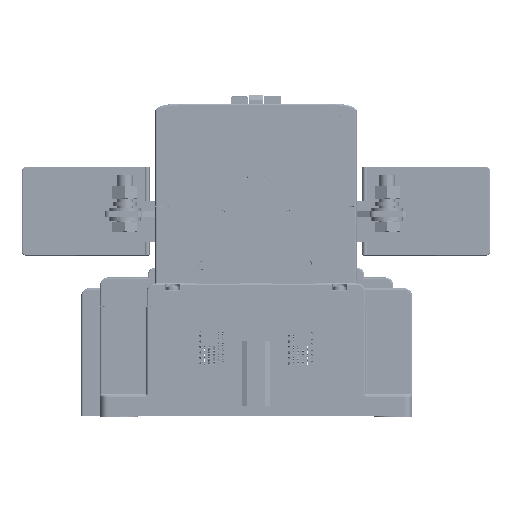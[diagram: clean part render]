
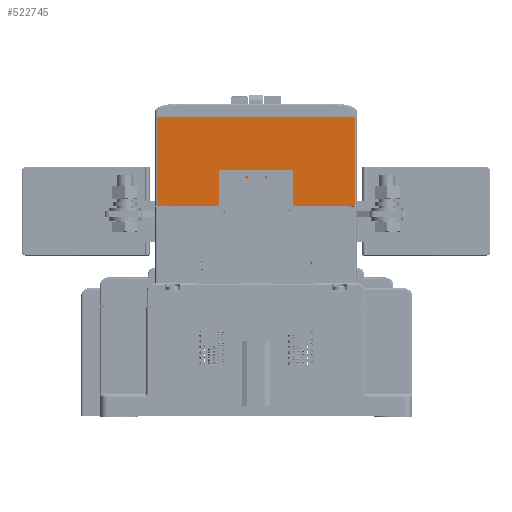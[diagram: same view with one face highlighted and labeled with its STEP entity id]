
A CAD part, left-side view. The second image highlights one B-rep face of the part: STEP entity #522745.
In plain terms, the highlighted planar face has unit normal (-1, 0, 0) as drawn and (1, 0, 0) by its records, which use the part's own axes.
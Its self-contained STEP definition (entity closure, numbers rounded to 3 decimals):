
#3026 = DIRECTION ( 'NONE',  ( 0., 1., 0. ) ) ;
#3708 = DIRECTION ( 'NONE',  ( 0., 0., -1. ) ) ;
#18098 = ORIENTED_EDGE ( 'NONE', *, *, #417259, .T. ) ;
#24889 = DIRECTION ( 'NONE',  ( 0., 0., 1. ) ) ;
#30881 = VERTEX_POINT ( 'NONE', #98754 ) ;
#35093 = ORIENTED_EDGE ( 'NONE', *, *, #960650, .T. ) ;
#54484 = ORIENTED_EDGE ( 'NONE', *, *, #478987, .T. ) ;
#60256 = EDGE_CURVE ( 'NONE', #767217, #897748, #169337, .T. ) ;
#66828 = DIRECTION ( 'NONE',  ( 0., 0., -1. ) ) ;
#84078 = VECTOR ( 'NONE', #1040582, 1000. ) ;
#91354 = CARTESIAN_POINT ( 'NONE',  ( 62.5, 17.7, -15.5 ) ) ;
#98631 = EDGE_CURVE ( 'NONE', #916209, #780032, #577604, .T. ) ;
#98754 = CARTESIAN_POINT ( 'NONE',  ( 62.5, 18.7, -15.5 ) ) ;
#112847 = CARTESIAN_POINT ( 'NONE',  ( 62.5, 17.7, -16.5 ) ) ;
#116597 = VECTOR ( 'NONE', #494074, 1000. ) ;
#130274 = CARTESIAN_POINT ( 'NONE',  ( 62.5, 17.7, 16.5 ) ) ;
#130574 = CARTESIAN_POINT ( 'NONE',  ( 62.5, 8., -17.5 ) ) ;
#135211 = CARTESIAN_POINT ( 'NONE',  ( 62.5, 9., 17.5 ) ) ;
#151154 = LINE ( 'NONE', #800138, #116597 ) ;
#152165 = ORIENTED_EDGE ( 'NONE', *, *, #98631, .F. ) ;
#169337 = LINE ( 'NONE', #340877, #605495 ) ;
#177888 = CARTESIAN_POINT ( 'NONE',  ( 62.5, 9., 16.5 ) ) ;
#180106 = EDGE_LOOP ( 'NONE', ( #35093, #435499, #152165, #200944, #54484, #18098, #447961, #782373, #286781, #185126, #839417, #602310 ) ) ;
#184347 = DIRECTION ( 'NONE',  ( 0., -1., 0. ) ) ;
#185126 = ORIENTED_EDGE ( 'NONE', *, *, #1056832, .T. ) ;
#185909 = DIRECTION ( 'NONE',  ( -1., 0., 0. ) ) ;
#200944 = ORIENTED_EDGE ( 'NONE', *, *, #617475, .T. ) ;
#219907 = CARTESIAN_POINT ( 'NONE',  ( 62.5, 8., 63.5 ) ) ;
#225327 = FACE_OUTER_BOUND ( 'NONE', #180106, .T. ) ;
#236902 = VECTOR ( 'NONE', #3708, 1000. ) ;
#242816 = CARTESIAN_POINT ( 'NONE',  ( 62.5, 9., -16.5 ) ) ;
#261551 = AXIS2_PLACEMENT_3D ( 'NONE', #663388, #185909, #24889 ) ;
#271031 = DIRECTION ( 'NONE',  ( 1., 0., 0. ) ) ;
#286781 = ORIENTED_EDGE ( 'NONE', *, *, #645079, .T. ) ;
#287062 = EDGE_CURVE ( 'NONE', #354180, #627131, #560024, .T. ) ;
#293340 = CARTESIAN_POINT ( 'NONE',  ( 62.5, 18.7, 15.5 ) ) ;
#329509 = AXIS2_PLACEMENT_3D ( 'NONE', #91354, #885550, #740372 ) ;
#340877 = CARTESIAN_POINT ( 'NONE',  ( 62.5, 9., 16.5 ) ) ;
#345220 = LINE ( 'NONE', #919202, #441414 ) ;
#354180 = VERTEX_POINT ( 'NONE', #242816 ) ;
#415339 = CIRCLE ( 'NONE', #261551, 1. ) ;
#417259 = EDGE_CURVE ( 'NONE', #442247, #767217, #684165, .T. ) ;
#423830 = DIRECTION ( 'NONE',  ( 0., 0., -1. ) ) ;
#435499 = ORIENTED_EDGE ( 'NONE', *, *, #461515, .F. ) ;
#441414 = VECTOR ( 'NONE', #184347, 1000. ) ;
#442247 = VERTEX_POINT ( 'NONE', #625612 ) ;
#447961 = ORIENTED_EDGE ( 'NONE', *, *, #60256, .T. ) ;
#461515 = EDGE_CURVE ( 'NONE', #780032, #496736, #650130, .T. ) ;
#469111 = CARTESIAN_POINT ( 'NONE',  ( 62.5, 8., -17.5 ) ) ;
#472882 = DIRECTION ( 'NONE',  ( 1., 0., 0. ) ) ;
#478987 = EDGE_CURVE ( 'NONE', #935174, #442247, #912568, .T. ) ;
#485815 = VECTOR ( 'NONE', #972207, 1000. ) ;
#491817 = CARTESIAN_POINT ( 'NONE',  ( 62.5, 65.5, 63.5 ) ) ;
#494074 = DIRECTION ( 'NONE',  ( 0., 1., 0. ) ) ;
#496736 = VERTEX_POINT ( 'NONE', #936986 ) ;
#498918 = CARTESIAN_POINT ( 'NONE',  ( 62.5, 18.7, 15.5 ) ) ;
#522745 = ADVANCED_FACE ( 'NONE', ( #225327 ), #885023, .T. ) ;
#542354 = AXIS2_PLACEMENT_3D ( 'NONE', #1005934, #271031, #598042 ) ;
#552410 = DIRECTION ( 'NONE',  ( 0., 1., 0. ) ) ;
#560024 = CIRCLE ( 'NONE', #542354, 1. ) ;
#570777 = LINE ( 'NONE', #469111, #646742 ) ;
#577604 = LINE ( 'NONE', #491817, #236902 ) ;
#579395 = LINE ( 'NONE', #498918, #778911 ) ;
#598042 = DIRECTION ( 'NONE',  ( 0., 0., 1. ) ) ;
#602310 = ORIENTED_EDGE ( 'NONE', *, *, #287062, .T. ) ;
#605495 = VECTOR ( 'NONE', #3026, 1000. ) ;
#607644 = CARTESIAN_POINT ( 'NONE',  ( 62.5, 8., 63.5 ) ) ;
#617475 = EDGE_CURVE ( 'NONE', #916209, #935174, #345220, .T. ) ;
#625612 = CARTESIAN_POINT ( 'NONE',  ( 62.5, 8., 17.5 ) ) ;
#627131 = VERTEX_POINT ( 'NONE', #130574 ) ;
#645079 = EDGE_CURVE ( 'NONE', #700082, #30881, #579395, .T. ) ;
#646742 = VECTOR ( 'NONE', #66828, 1000. ) ;
#650130 = LINE ( 'NONE', #1052667, #485815 ) ;
#659536 = CARTESIAN_POINT ( 'NONE',  ( 62.5, 65.5, -63.5 ) ) ;
#663388 = CARTESIAN_POINT ( 'NONE',  ( 62.5, 17.7, 15.5 ) ) ;
#684165 = CIRCLE ( 'NONE', #769909, 1. ) ;
#689350 = CIRCLE ( 'NONE', #329509, 1. ) ;
#700082 = VERTEX_POINT ( 'NONE', #293340 ) ;
#740372 = DIRECTION ( 'NONE',  ( 0., 1., 0. ) ) ;
#756308 = EDGE_CURVE ( 'NONE', #897748, #700082, #415339, .T. ) ;
#765080 = AXIS2_PLACEMENT_3D ( 'NONE', #799153, #809735, #552410 ) ;
#767217 = VERTEX_POINT ( 'NONE', #177888 ) ;
#769909 = AXIS2_PLACEMENT_3D ( 'NONE', #135211, #472882, #1052237 ) ;
#778911 = VECTOR ( 'NONE', #423830, 1000. ) ;
#780032 = VERTEX_POINT ( 'NONE', #659536 ) ;
#782373 = ORIENTED_EDGE ( 'NONE', *, *, #756308, .T. ) ;
#794101 = CARTESIAN_POINT ( 'NONE',  ( 62.5, 65.5, 63.5 ) ) ;
#799153 = CARTESIAN_POINT ( 'NONE',  ( 62.5, 0., 64.5 ) ) ;
#800138 = CARTESIAN_POINT ( 'NONE',  ( 62.5, 9., -16.5 ) ) ;
#809735 = DIRECTION ( 'NONE',  ( 1., 0., 0. ) ) ;
#839417 = ORIENTED_EDGE ( 'NONE', *, *, #928665, .F. ) ;
#885023 = PLANE ( 'NONE',  #765080 ) ;
#885550 = DIRECTION ( 'NONE',  ( -1., 0., 0. ) ) ;
#897748 = VERTEX_POINT ( 'NONE', #130274 ) ;
#912568 = LINE ( 'NONE', #219907, #84078 ) ;
#916209 = VERTEX_POINT ( 'NONE', #794101 ) ;
#919202 = CARTESIAN_POINT ( 'NONE',  ( 62.5, 65.5, 63.5 ) ) ;
#928665 = EDGE_CURVE ( 'NONE', #354180, #976766, #151154, .T. ) ;
#935174 = VERTEX_POINT ( 'NONE', #607644 ) ;
#936986 = CARTESIAN_POINT ( 'NONE',  ( 62.5, 8., -63.5 ) ) ;
#960650 = EDGE_CURVE ( 'NONE', #627131, #496736, #570777, .T. ) ;
#972207 = DIRECTION ( 'NONE',  ( 0., -1., 0. ) ) ;
#976766 = VERTEX_POINT ( 'NONE', #112847 ) ;
#1005934 = CARTESIAN_POINT ( 'NONE',  ( 62.5, 9., -17.5 ) ) ;
#1040582 = DIRECTION ( 'NONE',  ( 0., 0., -1. ) ) ;
#1052237 = DIRECTION ( 'NONE',  ( 0., -1., 0. ) ) ;
#1052667 = CARTESIAN_POINT ( 'NONE',  ( 62.5, 65.5, -63.5 ) ) ;
#1056832 = EDGE_CURVE ( 'NONE', #30881, #976766, #689350, .T. ) ;
